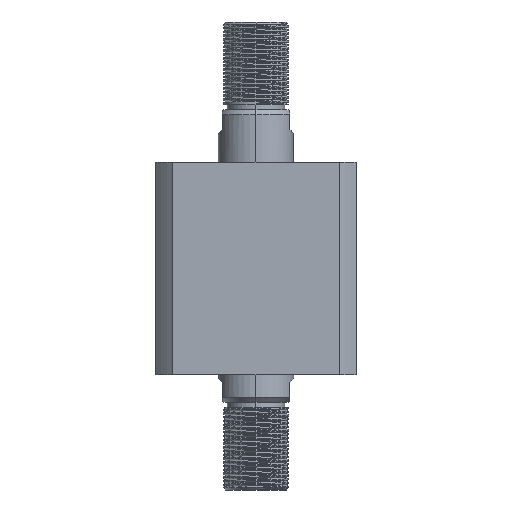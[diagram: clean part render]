
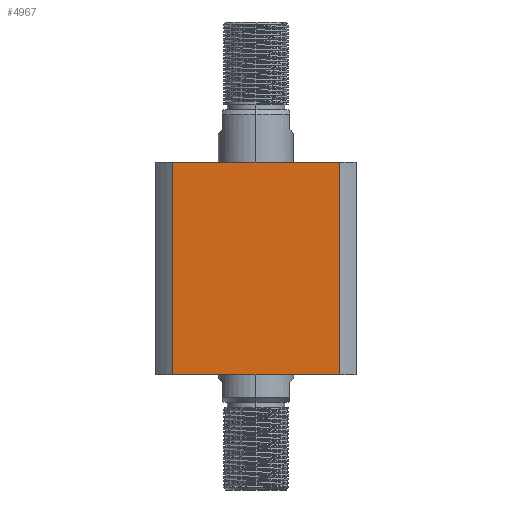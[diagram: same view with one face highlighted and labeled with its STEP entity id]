
A CAD part, left-side view. The second image highlights one B-rep face of the part: STEP entity #4967.
In plain terms, the highlighted planar face has unit normal (-1, 0, 0).
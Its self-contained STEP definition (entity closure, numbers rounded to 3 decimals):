
#910 = CARTESIAN_POINT ( 'NONE',  ( -40., 33.226, 42.5 ) ) ;
#1493 = DIRECTION ( 'NONE',  ( 0., 1., 0. ) ) ;
#1531 = EDGE_CURVE ( 'NONE', #11349, #2402, #10636, .T. ) ;
#1586 = CARTESIAN_POINT ( 'NONE',  ( -40., 33.226, -42.5 ) ) ;
#1836 = VECTOR ( 'NONE', #12517, 1000. ) ;
#2246 = CARTESIAN_POINT ( 'NONE',  ( -40., -33.226, -42.5 ) ) ;
#2402 = VERTEX_POINT ( 'NONE', #2246 ) ;
#3141 = EDGE_CURVE ( 'NONE', #14751, #9632, #7396, .T. ) ;
#3839 = ORIENTED_EDGE ( 'NONE', *, *, #9816, .T. ) ;
#3983 = PLANE ( 'NONE',  #16613 ) ;
#4002 = VECTOR ( 'NONE', #11171, 1000. ) ;
#4037 = CARTESIAN_POINT ( 'NONE',  ( -40., 33.226, 42.5 ) ) ;
#4967 = ADVANCED_FACE ( 'NONE', ( #10125 ), #3983, .F. ) ;
#5627 = ORIENTED_EDGE ( 'NONE', *, *, #1531, .F. ) ;
#6774 = DIRECTION ( 'NONE',  ( 0., -1., 0. ) ) ;
#7396 = LINE ( 'NONE', #10008, #14460 ) ;
#8501 = LINE ( 'NONE', #1586, #4002 ) ;
#9632 = VERTEX_POINT ( 'NONE', #12275 ) ;
#9816 = EDGE_CURVE ( 'NONE', #9632, #2402, #8501, .T. ) ;
#10008 = CARTESIAN_POINT ( 'NONE',  ( -40., 33.226, 42.5 ) ) ;
#10125 = FACE_OUTER_BOUND ( 'NONE', #17287, .T. ) ;
#10269 = ORIENTED_EDGE ( 'NONE', *, *, #3141, .T. ) ;
#10366 = CARTESIAN_POINT ( 'NONE',  ( -40., -33.226, 42.5 ) ) ;
#10636 = LINE ( 'NONE', #10841, #1836 ) ;
#10841 = CARTESIAN_POINT ( 'NONE',  ( -40., -33.226, 42.5 ) ) ;
#11171 = DIRECTION ( 'NONE',  ( 0., -1., 0. ) ) ;
#11349 = VERTEX_POINT ( 'NONE', #10366 ) ;
#12275 = CARTESIAN_POINT ( 'NONE',  ( -40., 33.226, -42.5 ) ) ;
#12355 = DIRECTION ( 'NONE',  ( 1., 0., 0. ) ) ;
#12517 = DIRECTION ( 'NONE',  ( 0., 0., -1. ) ) ;
#14300 = ORIENTED_EDGE ( 'NONE', *, *, #14900, .F. ) ;
#14460 = VECTOR ( 'NONE', #16642, 1000. ) ;
#14648 = VECTOR ( 'NONE', #6774, 1000. ) ;
#14751 = VERTEX_POINT ( 'NONE', #910 ) ;
#14864 = LINE ( 'NONE', #16157, #14648 ) ;
#14900 = EDGE_CURVE ( 'NONE', #14751, #11349, #14864, .T. ) ;
#16157 = CARTESIAN_POINT ( 'NONE',  ( -40., 33.226, 42.5 ) ) ;
#16613 = AXIS2_PLACEMENT_3D ( 'NONE', #4037, #12355, #1493 ) ;
#16642 = DIRECTION ( 'NONE',  ( 0., 0., -1. ) ) ;
#17287 = EDGE_LOOP ( 'NONE', ( #3839, #5627, #14300, #10269 ) ) ;
